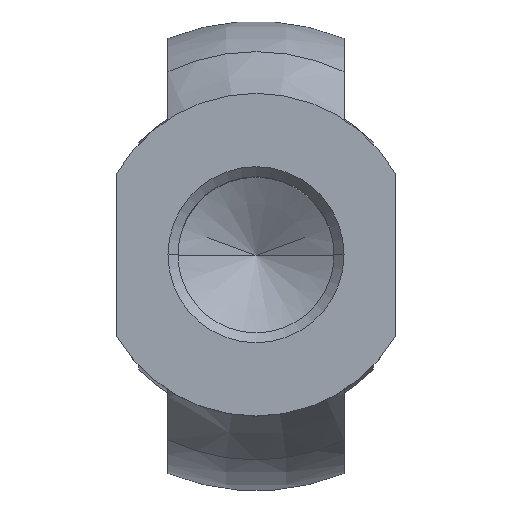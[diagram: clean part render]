
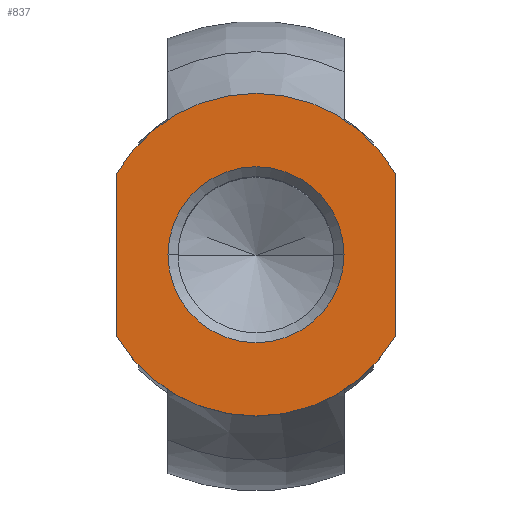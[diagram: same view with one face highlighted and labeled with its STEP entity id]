
A CAD part, top view. The second image highlights one B-rep face of the part: STEP entity #837.
In plain terms, the highlighted planar face has unit normal (0, 0, 1).
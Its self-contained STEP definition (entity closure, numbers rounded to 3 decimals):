
#11 = EDGE_LOOP ( 'NONE', ( #868, #875, #867, #861 ) ) ;
#141 = CARTESIAN_POINT ( 'NONE',  ( 6., 0., 0. ) ) ;
#151 = CARTESIAN_POINT ( 'NONE',  ( -6., 0., 0. ) ) ;
#357 = FACE_OUTER_BOUND ( 'NONE', #11, .T. ) ;
#358 = FACE_BOUND ( 'NONE', #822, .T. ) ;
#389 = DIRECTION ( 'NONE',  ( 1., 0., 0. ) ) ;
#390 = DIRECTION ( 'NONE',  ( 0., 0., 1. ) ) ;
#391 = CARTESIAN_POINT ( 'NONE',  ( 5.5, 0., 0. ) ) ;
#392 = AXIS2_PLACEMENT_3D ( 'NONE', #391, #390, #389 ) ;
#395 = PLANE ( 'NONE',  #392 ) ;
#416 = DIRECTION ( 'NONE',  ( 1., 0., 0. ) ) ;
#417 = DIRECTION ( 'NONE',  ( 0., 0., -1. ) ) ;
#418 = CARTESIAN_POINT ( 'NONE',  ( 0., 0., 0. ) ) ;
#419 = AXIS2_PLACEMENT_3D ( 'NONE', #418, #417, #416 ) ;
#420 = CIRCLE ( 'NONE', #419, 6. ) ;
#480 = CARTESIAN_POINT ( 'NONE',  ( -9.5, -5.545, 0. ) ) ;
#481 = CARTESIAN_POINT ( 'NONE',  ( 9.5, -5.545, 0. ) ) ;
#487 = DIRECTION ( 'NONE',  ( 0., -1., 0. ) ) ;
#488 = VECTOR ( 'NONE', #487, 1000. ) ;
#489 = CARTESIAN_POINT ( 'NONE',  ( -9.5, 32., 0. ) ) ;
#490 = LINE ( 'NONE', #489, #488 ) ;
#491 = CARTESIAN_POINT ( 'NONE',  ( 9.5, 5.545, 0. ) ) ;
#541 = EDGE_CURVE ( 'NONE', #582, #597, #1171, .T. ) ;
#582 = VERTEX_POINT ( 'NONE', #141 ) ;
#597 = VERTEX_POINT ( 'NONE', #151 ) ;
#628 = DIRECTION ( 'NONE',  ( 1., 0., 0. ) ) ;
#629 = DIRECTION ( 'NONE',  ( 0., 0., -1. ) ) ;
#630 = CARTESIAN_POINT ( 'NONE',  ( 0., 0., 0. ) ) ;
#631 = AXIS2_PLACEMENT_3D ( 'NONE', #630, #629, #628 ) ;
#632 = CIRCLE ( 'NONE', #631, 11. ) ;
#634 = CARTESIAN_POINT ( 'NONE',  ( -9.5, 5.545, 0. ) ) ;
#635 = DIRECTION ( 'NONE',  ( 1., 0., 0. ) ) ;
#636 = DIRECTION ( 'NONE',  ( 0., 0., -1. ) ) ;
#637 = CARTESIAN_POINT ( 'NONE',  ( 0., 0., 0. ) ) ;
#638 = AXIS2_PLACEMENT_3D ( 'NONE', #637, #636, #635 ) ;
#639 = CIRCLE ( 'NONE', #638, 11. ) ;
#640 = DIRECTION ( 'NONE',  ( 0., 1., 0. ) ) ;
#641 = VECTOR ( 'NONE', #640, 1000. ) ;
#642 = CARTESIAN_POINT ( 'NONE',  ( 9.5, 32., 0. ) ) ;
#643 = LINE ( 'NONE', #642, #641 ) ;
#822 = EDGE_LOOP ( 'NONE', ( #828, #829 ) ) ;
#828 = ORIENTED_EDGE ( 'NONE', *, *, #541, .T. ) ;
#829 = ORIENTED_EDGE ( 'NONE', *, *, #851, .T. ) ;
#837 = ADVANCED_FACE ( 'NONE', ( #358, #357 ), #395, .T. ) ;
#851 = EDGE_CURVE ( 'NONE', #597, #582, #420, .T. ) ;
#860 = VERTEX_POINT ( 'NONE', #491 ) ;
#861 = ORIENTED_EDGE ( 'NONE', *, *, #878, .F. ) ;
#862 = EDGE_CURVE ( 'NONE', #877, #870, #490, .T. ) ;
#866 = VERTEX_POINT ( 'NONE', #481 ) ;
#867 = ORIENTED_EDGE ( 'NONE', *, *, #862, .T. ) ;
#868 = ORIENTED_EDGE ( 'NONE', *, *, #874, .T. ) ;
#870 = VERTEX_POINT ( 'NONE', #480 ) ;
#874 = EDGE_CURVE ( 'NONE', #866, #860, #643, .T. ) ;
#875 = ORIENTED_EDGE ( 'NONE', *, *, #876, .F. ) ;
#876 = EDGE_CURVE ( 'NONE', #877, #860, #639, .T. ) ;
#877 = VERTEX_POINT ( 'NONE', #634 ) ;
#878 = EDGE_CURVE ( 'NONE', #866, #870, #632, .T. ) ;
#1168 = DIRECTION ( 'NONE',  ( 1., 0., 0. ) ) ;
#1169 = CARTESIAN_POINT ( 'NONE',  ( 0., 0., 0. ) ) ;
#1170 = AXIS2_PLACEMENT_3D ( 'NONE', #1169, #1173, #1168 ) ;
#1171 = CIRCLE ( 'NONE', #1170, 6. ) ;
#1173 = DIRECTION ( 'NONE',  ( 0., 0., -1. ) ) ;
